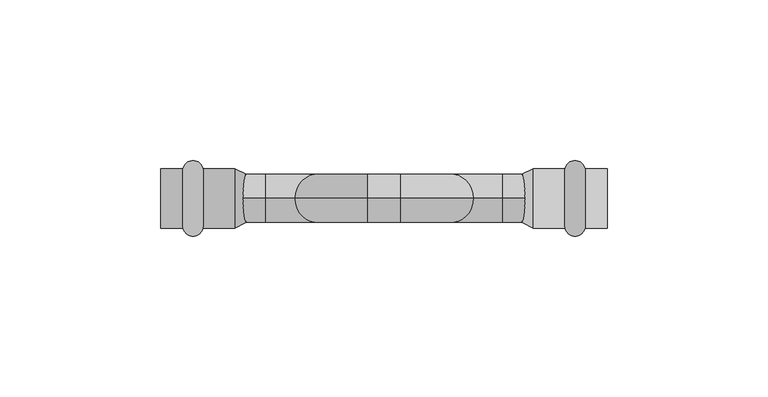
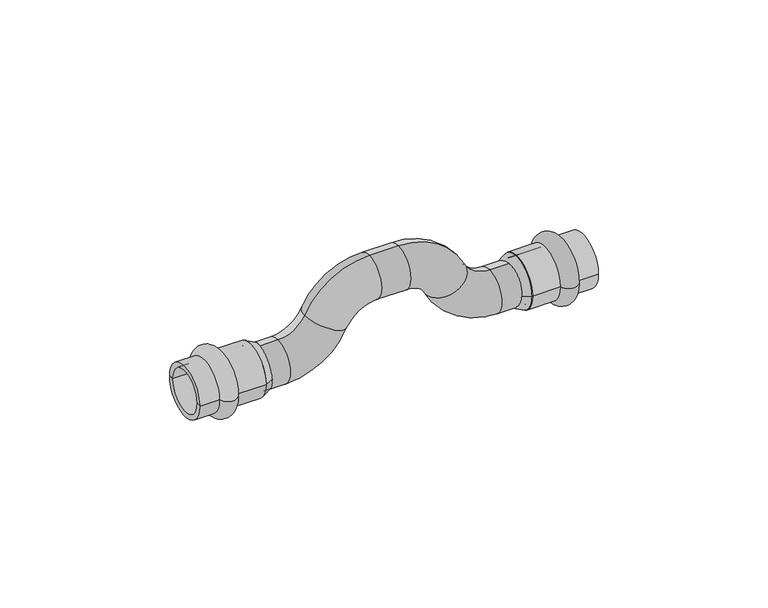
"""IFC4 building model written with IfcOpenShell, lengths in millimetres: pipe fitting geometry, VALTEC_VTi.971.I_Обвод (раструб–раструб)_Нержавеющая сталь : VTi.971.I."""

from ifc_helpers import new_model, si_unit, point, frame, origin, place, context, project, spatial, polyline, circle_curve, ellipse_curve, trimmed, source, transform, mapped, element, save
from ifc_brep_helpers import plane_surface, cylinder_surface, revolved_surface, advanced_brep


def pipe_fitting_a5ec7482(model_context):
    return source(origin(), model_context, "Body", "AdvancedBrep", [
        advanced_brep(
        [(-46.5, 0.0, -7.5), (-46.5, 0.0, 7.5), (-37.0, 0.0, -7.5), (-37.0, 0.0, 7.5), (-5.0, 0.0, 27.5), (-5.0, 0.0, 12.5), (5.0, 0.0, 12.5), (5.0, 0.0, 27.5), (46.5, 0.0, -7.5), (46.5, 0.0, 7.5), (37.0, 0.0, 7.5), (37.0, 0.0, -7.5), (-27.741573, 0.0, 13.2865169), (-14.258427, 0.0, 6.7134831), (27.741573, 0.0, 13.2865169), (14.258427, 0.0, 6.7134831)],
        [
            (0, 1, circle_curve(frame((-46.5, 0.0, 0.0), z_axis=(-1.0, 0.0, 0.0), x_axis=(0.0, 0.0, 1.0)), 7.5)),
            (1, 0, circle_curve(frame((-46.5, 0.0, 0.0), z_axis=(-1.0, 0.0, 0.0), x_axis=(0.0, 0.0, 1.0)), 7.5)),
            (0, 2),
            (2, 3, circle_curve(frame((-37.0, 0.0, 0.0), z_axis=(-1.0, 0.0, 0.0), x_axis=(0.0, 0.0, 1.0)), 7.5)),
            (3, 1),
            (3, 2, circle_curve(frame((-37.0, 0.0, 0.0), z_axis=(-1.0, 0.0, 0.0), x_axis=(0.0, 0.0, 1.0)), 7.5)),
            (4, 5, circle_curve(frame((-5.0, 0.0, 20.0), z_axis=(1.0, 0.0, 0.0), x_axis=(0.0, 0.0, 1.0)), 7.5)),
            (5, 6),
            (6, 7, circle_curve(frame((5.0, 0.0, 20.0), z_axis=(-1.0, 0.0, 0.0), x_axis=(0.0, 0.0, 1.0)), 7.5)),
            (7, 4),
            (5, 4, circle_curve(frame((-5.0, 0.0, 20.0), z_axis=(1.0, 0.0, 0.0), x_axis=(0.0, 0.0, 1.0)), 7.5)),
            (7, 6, circle_curve(frame((5.0, 0.0, 20.0), z_axis=(-1.0, 0.0, 0.0), x_axis=(0.0, 0.0, 1.0)), 7.5)),
            (8, 9, circle_curve(frame((46.5, 0.0, 0.0), z_axis=(1.0, 0.0, 0.0), x_axis=(0.0, 0.0, 1.0)), 7.5)),
            (9, 8, circle_curve(frame((46.5, 0.0, 0.0), z_axis=(1.0, 0.0, 0.0), x_axis=(0.0, 0.0, 1.0)), 7.5)),
            (10, 11, circle_curve(frame((37.0, 0.0, 0.0), z_axis=(1.0, 0.0, 0.0), x_axis=(0.0, 0.0, 1.0)), 7.5)),
            (11, 8),
            (9, 10),
            (11, 10, circle_curve(frame((37.0, 0.0, 0.0), z_axis=(1.0, 0.0, 0.0), x_axis=(0.0, 0.0, 1.0)), 7.5)),
            (12, 3, circle_curve(frame((-37.0, 0.0, 17.8), z_axis=(0.0, 1.0, 0.0), x_axis=(0.0, 0.0, -1.0)), 10.3)),
            (2, 13, circle_curve(frame((-37.0, 0.0, 17.8), z_axis=(0.0, -1.0, 0.0), x_axis=(0.0, 0.0, -1.0)), 25.3)),
            (13, 12, circle_curve(frame((-21.0, 0.0, 10.0), z_axis=(-0.43820224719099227, 0.0, -0.8988764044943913), x_axis=(-0.8988764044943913, 0.0, 0.43820224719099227)), 7.5)),
            (12, 13, circle_curve(frame((-21.0, 0.0, 10.0), z_axis=(-0.4382022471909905, 0.0, -0.8988764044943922), x_axis=(-0.8988764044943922, 0.0, 0.4382022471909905)), 7.5)),
            (4, 12, circle_curve(frame((-5.0, 0.0, 2.2), z_axis=(0.0, -1.0, 0.0), x_axis=(-0.8988764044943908, 0.0, 0.4382022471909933)), 25.3)),
            (13, 5, circle_curve(frame((-5.0, 0.0, 2.2), z_axis=(0.0, 1.0, 0.0), x_axis=(-0.8988764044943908, 0.0, 0.4382022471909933)), 10.3)),
            (14, 7, circle_curve(frame((5.0, 0.0, 2.2), z_axis=(0.0, -1.0, 0.0), x_axis=(0.0, 0.0, 1.0)), 25.3)),
            (6, 15, circle_curve(frame((5.0, 0.0, 2.2), z_axis=(0.0, 1.0, 0.0), x_axis=(0.0, 0.0, 1.0)), 10.3)),
            (15, 14, circle_curve(frame((21.0, 0.0, 10.0), z_axis=(-0.43820224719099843, 0.0, 0.8988764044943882), x_axis=(0.8988764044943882, 0.0, 0.43820224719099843)), 7.5)),
            (14, 15, circle_curve(frame((21.0, 0.0, 10.0), z_axis=(-0.4382022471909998, 0.0, 0.8988764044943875), x_axis=(0.8988764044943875, 0.0, 0.4382022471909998)), 7.5)),
            (10, 14, circle_curve(frame((37.0, 0.0, 17.8), z_axis=(0.0, 1.0, 0.0), x_axis=(-0.8988764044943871, 0.0, -0.4382022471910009)), 10.3)),
            (15, 11, circle_curve(frame((37.0, 0.0, 17.8), z_axis=(0.0, -1.0, 0.0), x_axis=(-0.8988764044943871, 0.0, -0.4382022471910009)), 25.3)),
        ],
        [
            plane_surface(frame((-46.5, 0.0, 0.0), z_axis=(-1.0, 0.0, 0.0), x_axis=(0.0, -1.0, 0.0))),
            cylinder_surface(frame((-46.5, 0.0, 0.0), z_axis=(-1.0, 0.0, 0.0), x_axis=(0.0, 0.0, 1.0)), 7.5),
            cylinder_surface(frame((-5.0, 0.0, 20.0), z_axis=(-1.0, 0.0, 0.0), x_axis=(0.0, 0.0, 1.0)), 7.5),
            plane_surface(frame((46.5, 0.0, 0.0), z_axis=(1.0, 0.0, 0.0), x_axis=(0.0, -1.0, 0.0))),
            cylinder_surface(frame((37.0, 0.0, 0.0), z_axis=(-1.0, 0.0, 0.0), x_axis=(0.0, 0.0, 1.0)), 7.5),
            revolved_surface(trimmed(ellipse_curve(frame((-37.0, 0.0, 0.0), z_axis=(-1.0, 0.0, 0.0), x_axis=(0.0, 0.0, 1.0)), 7.5, 7.5), [point((-37.0, 0.0, -7.5))], [point((-37.0, 0.0, 7.5))], True, "CARTESIAN"), (-37.0, 0.0, 17.8), (0.0, -1.0, 0.0)),
            revolved_surface(trimmed(ellipse_curve(frame((-37.0, 0.0, 0.0), z_axis=(-1.0, 0.0, 0.0), x_axis=(0.0, 0.0, 1.0)), 7.5, 7.5), [point((-37.0, 0.0, 7.5))], [point((-37.0, 0.0, -7.5))], True, "CARTESIAN"), (-37.0, 0.0, 17.8), (0.0, -1.0, 0.0)),
            revolved_surface(trimmed(ellipse_curve(frame((-21.0, 0.0, 10.0), z_axis=(-0.4382022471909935, 0.0, -0.8988764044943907), x_axis=(-0.8988764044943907, 0.0, 0.4382022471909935)), 7.5, 7.5), [point((-14.258427, 0.0, 6.7134831))], [point((-27.741573, 0.0, 13.2865169))], True, "CARTESIAN"), (-5.0, 0.0, 2.2), (0.0, 1.0, 0.0)),
            revolved_surface(trimmed(ellipse_curve(frame((-21.0, 0.0, 10.0), z_axis=(-0.4382022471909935, 0.0, -0.8988764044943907), x_axis=(-0.8988764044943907, 0.0, 0.4382022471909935)), 7.5, 7.5), [point((-27.741573, 0.0, 13.2865169))], [point((-14.258427, 0.0, 6.7134831))], True, "CARTESIAN"), (-5.0, 0.0, 2.2), (0.0, 1.0, 0.0)),
            revolved_surface(trimmed(ellipse_curve(frame((5.0, 0.0, 20.0), z_axis=(-1.0, 0.0, 0.0), x_axis=(0.0, 0.0, 1.0)), 7.5, 7.5), [point((5.0, 0.0, 12.5))], [point((5.0, 0.0, 27.5))], True, "CARTESIAN"), (5.0, 0.0, 2.2), (0.0, 1.0, 0.0)),
            revolved_surface(trimmed(ellipse_curve(frame((5.0, 0.0, 20.0), z_axis=(-1.0, 0.0, 0.0), x_axis=(0.0, 0.0, 1.0)), 7.5, 7.5), [point((5.0, 0.0, 27.5))], [point((5.0, 0.0, 12.5))], True, "CARTESIAN"), (5.0, 0.0, 2.2), (0.0, 1.0, 0.0)),
            revolved_surface(trimmed(ellipse_curve(frame((21.0, 0.0, 10.0), z_axis=(-0.4382022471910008, 0.0, 0.8988764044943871), x_axis=(0.8988764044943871, 0.0, 0.4382022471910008)), 7.5, 7.5), [point((14.258427, 0.0, 6.7134831))], [point((27.741573, 0.0, 13.2865169))], True, "CARTESIAN"), (37.0, 0.0, 17.8), (0.0, -1.0, 0.0)),
            revolved_surface(trimmed(ellipse_curve(frame((21.0, 0.0, 10.0), z_axis=(-0.4382022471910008, 0.0, 0.8988764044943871), x_axis=(0.8988764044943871, 0.0, 0.4382022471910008)), 7.5, 7.5), [point((27.741573, 0.0, 13.2865169))], [point((14.258427, 0.0, 6.7134831))], True, "CARTESIAN"), (37.0, 0.0, 17.8), (0.0, -1.0, 0.0)),
        ],
        [
            (0, [[1, 2]]),
            (1, [[-1, 3, 4, 5]]),
            (1, [[-2, -5, 6, -3]]),
            (2, [[7, 8, 9, 10]]),
            (2, [[11, -10, 12, -8]]),
            (3, [[13, 14]]),
            (4, [[15, 16, -14, 17]]),
            (4, [[18, -17, -13, -16]]),
            (5, [[19, -4, 20, 21]]),
            (6, [[-20, -6, -19, 22]]),
            (7, [[23, -21, 24, -7]]),
            (8, [[-24, -22, -23, -11]]),
            (9, [[25, -9, 26, 27]]),
            (10, [[-26, -12, -25, 28]]),
            (11, [[29, -27, 30, -15]]),
            (12, [[-30, -28, -29, -18]]),
        ],
    ),
        advanced_brep(
        [(62.6122777, -9.25, 0.0), (56.2877223, -9.25, 0.0), (56.2877223, 9.25, 0.0), (62.6122777, 9.25, 0.0), (69.5, -9.25, 0.0), (69.5, 9.25, 0.0), (69.5, -7.5, 0.0), (69.5, 7.5, 0.0), (46.5, -7.5, 0.0), (46.5, 7.5, 0.0), (46.5, -9.25, 0.0), (46.5, 9.25, 0.0)],
        [
            (0, 1, circle_curve(frame((59.45, -8.5, 0.0), z_axis=(0.0, 0.0, -1.0), x_axis=(-1.0, 0.0, 0.0)), 3.25)),
            (1, 2, circle_curve(frame((56.2877223, 0.0, 0.0), z_axis=(1.0, 0.0, 0.0), x_axis=(0.0, 1.0, 0.0)), 9.25)),
            (2, 3, circle_curve(frame((59.45, 8.5, 0.0), z_axis=(0.0, 0.0, -1.0), x_axis=(-1.0, 0.0, 0.0)), 3.25)),
            (3, 0, circle_curve(frame((62.6122777, 0.0, 0.0), z_axis=(-1.0, 0.0, 0.0), x_axis=(0.0, 1.0, 0.0)), 9.25)),
            (2, 1, circle_curve(frame((56.2877223, 0.0, 0.0), z_axis=(1.0, 0.0, 0.0), x_axis=(0.0, 1.0, 0.0)), 9.25)),
            (0, 3, circle_curve(frame((62.6122777, 0.0, 0.0), z_axis=(-1.0, 0.0, 0.0), x_axis=(0.0, 1.0, 0.0)), 9.25)),
            (4, 0),
            (3, 5),
            (5, 4, circle_curve(frame((69.5, 0.0, 0.0), z_axis=(-1.0, 0.0, 0.0), x_axis=(0.0, 1.0, 0.0)), 9.25)),
            (4, 5, circle_curve(frame((69.5, 0.0, 0.0), z_axis=(-1.0, 0.0, 0.0), x_axis=(0.0, 1.0, 0.0)), 9.25)),
            (6, 4),
            (5, 7),
            (7, 6, circle_curve(frame((69.5, 0.0, 0.0), z_axis=(-1.0, 0.0, 0.0), x_axis=(0.0, 1.0, 0.0)), 7.5)),
            (6, 7, circle_curve(frame((69.5, 0.0, 0.0), z_axis=(-1.0, 0.0, 0.0), x_axis=(0.0, 1.0, 0.0)), 7.5)),
            (8, 6),
            (7, 9),
            (9, 8, circle_curve(frame((46.5, 0.0, 0.0), z_axis=(-1.0, 0.0, 0.0), x_axis=(0.0, 1.0, 0.0)), 7.5)),
            (8, 9, circle_curve(frame((46.5, 0.0, 0.0), z_axis=(-1.0, 0.0, 0.0), x_axis=(0.0, 1.0, 0.0)), 7.5)),
            (10, 8),
            (9, 11),
            (11, 10, circle_curve(frame((46.5, 0.0, 0.0), z_axis=(-1.0, 0.0, 0.0), x_axis=(0.0, 1.0, 0.0)), 9.25)),
            (10, 11, circle_curve(frame((46.5, 0.0, 0.0), z_axis=(-1.0, 0.0, 0.0), x_axis=(0.0, 1.0, 0.0)), 9.25)),
            (1, 10),
            (11, 2),
        ],
        [
            revolved_surface(trimmed(ellipse_curve(frame((59.45, 8.5, 0.0), z_axis=(0.0, 0.0, -1.0), x_axis=(-1.0, 0.0, 0.0)), 3.25, 3.25), [point((56.2877223, 9.25, 0.0))], [point((62.6122777, 9.25, 0.0))], True, "CARTESIAN"), (73.0364426, 0.0, 0.0), (1.0, 0.0, 0.0)),
            cylinder_surface(frame((73.0364426, 0.0, 0.0), z_axis=(1.0, 0.0, 0.0), x_axis=(0.0, 1.0, 0.0)), 9.25),
            plane_surface(frame((69.5, 0.0, 0.0), z_axis=(1.0, 0.0, 0.0), x_axis=(0.0, 1.0, 0.0))),
            revolved_surface(polyline([(69.5, 7.5, 0.0), (46.5, 7.5, 0.0)]), (73.0364426, 0.0, 0.0), (1.0, 0.0, 0.0)),
            plane_surface(frame((46.5, 0.0, 0.0), z_axis=(-1.0, 0.0, 0.0), x_axis=(0.0, 1.0, 0.0))),
        ],
        [
            (0, [[1, 2, 3, 4]]),
            (0, [[-3, 5, -1, 6]]),
            (1, [[7, -4, 8, 9]]),
            (1, [[-8, -6, -7, 10]]),
            (2, [[11, -9, 12, 13]]),
            (2, [[-12, -10, -11, 14]]),
            (3, [[15, -13, 16, 17]]),
            (3, [[-16, -14, -15, 18]]),
            (4, [[19, -17, 20, 21]]),
            (4, [[-20, -18, -19, 22]]),
            (1, [[23, -21, 24, -2]]),
            (1, [[-24, -22, -23, -5]]),
        ],
    ),
        advanced_brep(
        [(-62.6122777, -9.25, 0.0), (-62.6122777, 9.25, 0.0), (-56.2877223, 9.25, 0.0), (-56.2877223, -9.25, 0.0), (-69.5, -9.25, 0.0), (-69.5, 9.25, 0.0), (-69.5, -7.5, 0.0), (-69.5, 7.5, 0.0), (-46.5, -7.5, 0.0), (-46.5, 7.5, 0.0), (-46.5, -9.25, 0.0), (-46.5, 9.25, 0.0)],
        [
            (0, 1, circle_curve(frame((-62.6122777, 0.0, 0.0), z_axis=(1.0, 0.0, 0.0), x_axis=(0.0, 1.0, 0.0)), 9.25)),
            (1, 2, circle_curve(frame((-59.45, 8.5, 0.0), z_axis=(0.0, 0.0, -1.0), x_axis=(1.0, 0.0, 0.0)), 3.25)),
            (2, 3, circle_curve(frame((-56.2877223, 0.0, 0.0), z_axis=(-1.0, 0.0, 0.0), x_axis=(0.0, 1.0, 0.0)), 9.25)),
            (3, 0, circle_curve(frame((-59.45, -8.5, 0.0), z_axis=(0.0, 0.0, -1.0), x_axis=(1.0, 0.0, 0.0)), 3.25)),
            (1, 0, circle_curve(frame((-62.6122777, 0.0, 0.0), z_axis=(1.0, 0.0, 0.0), x_axis=(0.0, 1.0, 0.0)), 9.25)),
            (3, 2, circle_curve(frame((-56.2877223, 0.0, 0.0), z_axis=(-1.0, 0.0, 0.0), x_axis=(0.0, 1.0, 0.0)), 9.25)),
            (4, 5, circle_curve(frame((-69.5, 0.0, 0.0), z_axis=(1.0, 0.0, 0.0), x_axis=(0.0, 1.0, 0.0)), 9.25)),
            (5, 1),
            (0, 4),
            (5, 4, circle_curve(frame((-69.5, 0.0, 0.0), z_axis=(1.0, 0.0, 0.0), x_axis=(0.0, 1.0, 0.0)), 9.25)),
            (6, 7, circle_curve(frame((-69.5, 0.0, 0.0), z_axis=(1.0, 0.0, 0.0), x_axis=(0.0, 1.0, 0.0)), 7.5)),
            (7, 5),
            (4, 6),
            (7, 6, circle_curve(frame((-69.5, 0.0, 0.0), z_axis=(1.0, 0.0, 0.0), x_axis=(0.0, 1.0, 0.0)), 7.5)),
            (8, 9, circle_curve(frame((-46.5, 0.0, 0.0), z_axis=(1.0, 0.0, 0.0), x_axis=(0.0, 1.0, 0.0)), 7.5)),
            (9, 7),
            (6, 8),
            (9, 8, circle_curve(frame((-46.5, 0.0, 0.0), z_axis=(1.0, 0.0, 0.0), x_axis=(0.0, 1.0, 0.0)), 7.5)),
            (10, 11, circle_curve(frame((-46.5, 0.0, 0.0), z_axis=(1.0, 0.0, 0.0), x_axis=(0.0, 1.0, 0.0)), 9.25)),
            (11, 9),
            (8, 10),
            (11, 10, circle_curve(frame((-46.5, 0.0, 0.0), z_axis=(1.0, 0.0, 0.0), x_axis=(0.0, 1.0, 0.0)), 9.25)),
            (2, 11),
            (10, 3),
        ],
        [
            revolved_surface(trimmed(ellipse_curve(frame((-59.45, 8.5, 0.0), z_axis=(0.0, 0.0, 1.0), x_axis=(1.0, 0.0, 0.0)), 3.25, 3.25), [point((-56.2877223, 9.25, 0.0))], [point((-62.6122777, 9.25, 0.0))], True, "CARTESIAN"), (-73.0364426, 0.0, 0.0), (-1.0, 0.0, 0.0)),
            cylinder_surface(frame((-73.0364426, 0.0, 0.0), z_axis=(-1.0, 0.0, 0.0), x_axis=(0.0, 1.0, 0.0)), 9.25),
            plane_surface(frame((-69.5, 0.0, 0.0), z_axis=(-1.0, 0.0, 0.0), x_axis=(0.0, 1.0, 0.0))),
            revolved_surface(polyline([(-69.5, 7.5, 0.0), (-46.5, 7.5, 0.0)]), (-73.0364426, 0.0, 0.0), (-1.0, 0.0, 0.0)),
            plane_surface(frame((-46.5, 0.0, 0.0), z_axis=(1.0, 0.0, 0.0), x_axis=(0.0, 1.0, 0.0))),
        ],
        [
            (0, [[1, 2, 3, 4]]),
            (0, [[5, -4, 6, -2]]),
            (1, [[7, 8, -1, 9]]),
            (1, [[10, -9, -5, -8]]),
            (2, [[11, 12, -7, 13]]),
            (2, [[14, -13, -10, -12]]),
            (3, [[15, 16, -11, 17]]),
            (3, [[18, -17, -14, -16]]),
            (4, [[19, 20, -15, 21]]),
            (4, [[22, -21, -18, -20]]),
            (1, [[-3, 23, -19, 24]]),
            (1, [[-6, -24, -22, -23]]),
        ],
    ),
        advanced_brep(
        [(46.5, 9.25, 0.0), (46.5, -9.25, 0.0), (42.8, 7.5, 0.0), (42.8, -7.5, 0.0)],
        [
            (0, 1, circle_curve(frame((46.5, 0.0, 0.0), z_axis=(1.0, 0.0, 0.0), x_axis=(0.0, 1.0, 0.0)), 9.25)),
            (1, 0, circle_curve(frame((46.5, 0.0, 0.0), z_axis=(1.0, 0.0, 0.0), x_axis=(0.0, -1.0, 0.0)), 9.25)),
            (2, 3, circle_curve(frame((42.8, 0.0, 0.0), z_axis=(-1.0, 0.0, 0.0), x_axis=(0.0, -1.0, 0.0)), 7.5)),
            (3, 2, circle_curve(frame((42.8, 0.0, 0.0), z_axis=(-1.0, 0.0, 0.0), x_axis=(0.0, 1.0, 0.0)), 7.5)),
            (1, 3),
            (2, 0),
        ],
        [
            plane_surface(frame((46.5, 0.0, 0.0), z_axis=(1.0, 0.0, 0.0), x_axis=(0.0, 0.0, -1.0))),
            plane_surface(frame((42.8, 0.0, 0.0), z_axis=(-1.0, 0.0, 0.0), x_axis=(0.0, 0.0, -1.0))),
            revolved_surface(polyline([(42.8, 7.500000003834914, 0.0), (46.5, 9.25, 0.0)]), (26.9428571, 0.0, 0.0), (1.0, 0.0, 0.0)),
            revolved_surface(polyline([(42.8, -7.500000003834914, 0.0), (46.5, -9.25, 0.0)]), (26.9428571, 0.0, 0.0), (1.0, 0.0, 0.0)),
        ],
        [
            (0, [[1, 2]]),
            (1, [[3, 4]]),
            (2, [[-2, 5, -3, 6]]),
            (3, [[-1, -6, -4, -5]]),
        ],
    ),
        advanced_brep(
        [(-46.5, 9.25, 0.0), (-46.5, -9.25, 0.0), (-42.8, 7.5, 0.0), (-42.8, -7.5, 0.0)],
        [
            (0, 1, circle_curve(frame((-46.5, 0.0, 0.0), z_axis=(-1.0, 0.0, 0.0), x_axis=(0.0, 1.0, 0.0)), 9.25)),
            (1, 0, circle_curve(frame((-46.5, 0.0, 0.0), z_axis=(-1.0, 0.0, 0.0), x_axis=(0.0, -1.0, 0.0)), 9.25)),
            (2, 3, circle_curve(frame((-42.8, 0.0, 0.0), z_axis=(1.0, 0.0, 0.0), x_axis=(0.0, -1.0, 0.0)), 7.5)),
            (3, 2, circle_curve(frame((-42.8, 0.0, 0.0), z_axis=(1.0, 0.0, 0.0), x_axis=(0.0, 1.0, 0.0)), 7.5)),
            (0, 2),
            (3, 1),
        ],
        [
            plane_surface(frame((-46.5, 0.0, 0.0), z_axis=(-1.0, 0.0, 0.0), x_axis=(0.0, 0.0, 1.0))),
            plane_surface(frame((-42.8, 0.0, 0.0), z_axis=(1.0, 0.0, 0.0), x_axis=(0.0, 0.0, 1.0))),
            revolved_surface(polyline([(-42.8, -7.500000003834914, 0.0), (-46.5, -9.25, 0.0)]), (-26.9428571, 0.0, 0.0), (-1.0, 0.0, 0.0)),
            revolved_surface(polyline([(-42.8, 7.500000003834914, 0.0), (-46.5, 9.25, 0.0)]), (-26.9428571, 0.0, 0.0), (-1.0, 0.0, 0.0)),
        ],
        [
            (0, [[1, 2]]),
            (1, [[3, 4]]),
            (2, [[-1, 5, -4, 6]]),
            (3, [[-2, -6, -3, -5]]),
        ],
    ),
    ])


if __name__ == "__main__":
    model = new_model("IFC4")
    model_context = context("Model", 3, world=origin())
    ifc_project = project(units=[si_unit("LENGTHUNIT", "METRE", prefix="MILLI")], contexts=[model_context])
    site = spatial("IfcSite", under=ifc_project)
    building = spatial("IfcBuilding", under=site)
    placement = place(None, origin())
    pipe_fitting_shape = pipe_fitting_a5ec7482(model_context)
    element("IfcPipeFitting", 1, ObjectType="VALTEC_VTi.971.I_Обвод (раструб–раструб)_Нержавеющая сталь : VTi.971.I", at=placement, inside=building, context=model_context, shape_type="MappedRepresentation", body=[
        mapped(pipe_fitting_shape, transform((0.0, 0.0, 0.0), x_axis=(1.0, 0.0, 0.0), y_axis=(0.0, 1.0, 0.0), z_axis=(0.0, 0.0, 1.0))),
    ])
    save(model, "model.ifc")
